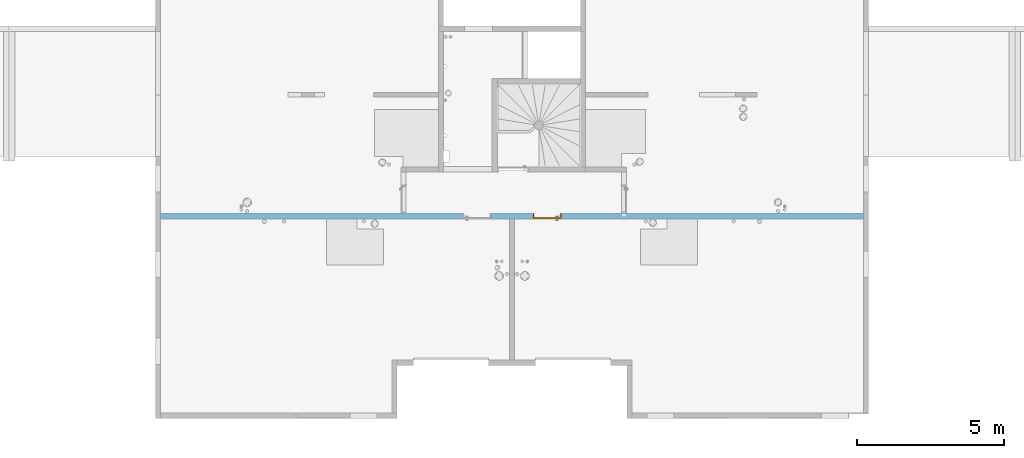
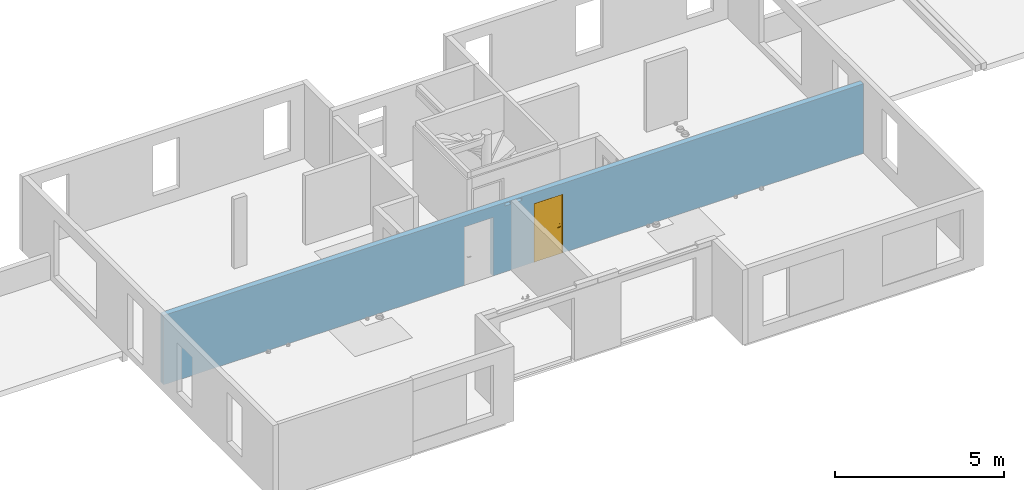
# One storey, part 9 of 24: 1 door, 6 openings, plus 1 element that does not belong to this part.
"""IFC2X3 building model written with IfcOpenShell, lengths in centimetres."""

from ifc_helpers import new_model, entity, si_unit, converted_unit, derived_unit, direction, frame, frame_2d, origin, place, context, subcontext, project, spatial, rectangle, extrude, faceted_brep, source, transform, mapped, material, material_list, layer, layer_set, layer_usage, type_object, type_shapes, element, fill, save


model = new_model("IFC2X3")

# Units and contexts
model_context = context("Model", 3, precision=0.001, world=origin(), true_north=direction((6.12303176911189e-17, 1.0)))
body_context = subcontext(model_context, "Body", "Model", "MODEL_VIEW")
ifc_project = project(units=[si_unit("LENGTHUNIT", "METRE", prefix="CENTI"), si_unit("AREAUNIT", "SQUARE_METRE"), si_unit("VOLUMEUNIT", "CUBIC_METRE"), converted_unit("PLANEANGLEUNIT", "DEGREE", entity("IfcRatioMeasure", 0.0174532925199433), si_unit("PLANEANGLEUNIT", "RADIAN"), dimensions=[0, 0, 0, 0, 0, 0, 0]), si_unit("MASSUNIT", "GRAM", prefix="KILO"), derived_unit("MASSDENSITYUNIT", [(si_unit("MASSUNIT", "GRAM", prefix="KILO"), 1), (si_unit("LENGTHUNIT", "METRE"), -3)]), si_unit("TIMEUNIT", "SECOND"), si_unit("FREQUENCYUNIT", "HERTZ"), si_unit("THERMODYNAMICTEMPERATUREUNIT", "DEGREE_CELSIUS"), derived_unit("THERMALTRANSMITTANCEUNIT", [(si_unit("MASSUNIT", "GRAM", prefix="KILO"), 1), (si_unit("THERMODYNAMICTEMPERATUREUNIT", "KELVIN"), -1), (si_unit("TIMEUNIT", "SECOND"), -3)]), derived_unit("VOLUMETRICFLOWRATEUNIT", [(si_unit("LENGTHUNIT", "METRE"), 3), (si_unit("TIMEUNIT", "SECOND"), -1)]), si_unit("ELECTRICCURRENTUNIT", "AMPERE"), si_unit("ELECTRICVOLTAGEUNIT", "VOLT"), si_unit("POWERUNIT", "WATT"), si_unit("FORCEUNIT", "NEWTON"), si_unit("ILLUMINANCEUNIT", "LUX"), si_unit("LUMINOUSFLUXUNIT", "LUMEN"), si_unit("LUMINOUSINTENSITYUNIT", "CANDELA"), derived_unit("USERDEFINED", [(si_unit("MASSUNIT", "GRAM", prefix="KILO"), -1), (si_unit("LENGTHUNIT", "METRE"), -2), (si_unit("TIMEUNIT", "SECOND"), 3), (si_unit("LUMINOUSFLUXUNIT", "LUMEN"), 1)]), derived_unit("LINEARVELOCITYUNIT", [(si_unit("LENGTHUNIT", "METRE"), 1), (si_unit("TIMEUNIT", "SECOND"), -1)]), si_unit("PRESSUREUNIT", "PASCAL"), derived_unit("USERDEFINED", [(si_unit("LENGTHUNIT", "METRE"), -2), (si_unit("MASSUNIT", "GRAM", prefix="KILO"), 1), (si_unit("TIMEUNIT", "SECOND"), -2)])], contexts=[model_context])

# Site, building, storey
site_placement = place(None, origin())
site = spatial("IfcSite", under=ifc_project, at=site_placement, Name="Default", CompositionType="ELEMENT")
building_placement = place(site_placement, origin())
building = spatial("IfcBuilding", under=site, at=building_placement, Name="CAGE 03", CompositionType="ELEMENT")
storey_placement = place(building_placement, frame((0.0, 0.0, 880.0)))
storey = spatial("IfcBuildingStorey", under=building, at=storey_placement, Name="R+3", CompositionType="ELEMENT", Elevation=880.0)

# Wall, openings, door
ifc_material_1 = material(Name="Béton, C25/30")
ifc_layer = layer(ifc_material_1, 18.0)
ifc_layer_set = layer_set([ifc_layer], Name="Mur de base:Voile BA 18")
ifc_layer_usage = layer_usage(ifc_layer_set, "AXIS2", "NEGATIVE", 9.0)
wall_type = type_object("IfcWallType", Name="Mur de base:Voile BA 18", PredefinedType="STANDARD", material=ifc_layer_set)
wall_placement = place(storey_placement, frame((5888.36582014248, 4483.6606660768, 0.0)))
wall = element("IfcWallStandardCase", 1, at=wall_placement, inside=storey, type_object=wall_type, material=ifc_layer_usage, Name="Mur de base:Voile BA 18", ObjectType="Mur de base:Voile BA 18", context=body_context, shape_type="SweptSolid", body=[
    extrude(rectangle(XDim=2385.99999999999, YDim=17.9999999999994, at=frame_2d((1193.0, -8.88178419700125e-16), x_axis=(-1.0, 0.0))), origin(), (0.0, 0.0, 1.0), 250.0),
])
opening_1_placement = place(wall_placement, origin())
element("IfcOpeningElement", 2, at=opening_1_placement, cuts=wall, Name="Mur de base:Voile BA 18", ObjectType="Opening", context=body_context, shape_type="SweptSolid", body=[
    extrude(rectangle(XDim=210.000000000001, YDim=18.0000000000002, at=frame_2d((4.33431068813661e-13, 1.06581410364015e-13), x_axis=(0.0, 1.0))), frame((825.0, 9.0, 105.0), z_axis=(0.0, 1.0, 0.0), x_axis=(1.0, 0.0, 0.0)), (0.0, 0.0, 1.0), 96.9999999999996),
])
opening_2_placement = place(wall_placement, origin())
element("IfcOpeningElement", 3, at=opening_2_placement, cuts=wall, Name="Mur de base:Voile BA 18", ObjectType="Opening", context=body_context, shape_type="SweptSolid", body=[
    extrude(rectangle(XDim=210.000000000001, YDim=18.0000000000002, at=frame_2d((4.33431068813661e-13, 1.06581410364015e-13), x_axis=(0.0, 1.0))), frame((1573.0, 9.0, 105.0), z_axis=(0.0, 1.0, 0.0), x_axis=(1.0, 0.0, 0.0)), (0.0, 0.0, 1.0), 96.9999999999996),
])
opening_3_placement = place(wall_placement, origin())
element("IfcOpeningElement", 4, at=opening_3_placement, cuts=wall, Name="Mur de base:Voile BA 18", ObjectType="Opening", context=body_context, shape_type="SweptSolid", body=[
    extrude(rectangle(XDim=10.0000000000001, YDim=19.9999999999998, at=frame_2d((4.33431068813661e-13, 1.08357767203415e-13), x_axis=(0.0, 1.0))), frame((1174.0, -9.0, 242.5), z_axis=(0.0, 1.0, 0.0), x_axis=(1.0, 0.0, 0.0)), (0.0, 0.0, 1.0), 17.9999999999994),
])
opening_4_placement = place(wall_placement, origin())
element("IfcOpeningElement", 5, at=opening_4_placement, cuts=wall, Name="Mur de base:Voile BA 18", ObjectType="Opening", context=body_context, shape_type="SweptSolid", body=[
    extrude(rectangle(XDim=10.0000000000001, YDim=19.9999999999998, at=frame_2d((4.33431068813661e-13, 1.08357767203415e-13), x_axis=(0.0, 1.0))), frame((1212.0, -9.0, 242.5), z_axis=(0.0, 1.0, 0.0), x_axis=(1.0, 0.0, 0.0)), (0.0, 0.0, 1.0), 17.9999999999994),
])
opening_5_placement = place(wall_placement, frame((1122.5, 9.0, 0.0)))
element("IfcOpeningElement", 6, at=opening_5_placement, cuts=wall, Name="Int. Simple:HB93:1", ObjectType="Opening", context=body_context, shape_type="SweptSolid", body=[
    extrude(rectangle(XDim=210.000000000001, YDim=96.9999999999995, at=frame_2d((105.000000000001, 48.4999999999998), x_axis=(1.0, 0.0))), frame((0.0, 0.0, 0.0), z_axis=(0.0, -1.0, 0.0), x_axis=(0.0, 0.0, 1.0)), (0.0, 0.0, 1.0), 18.0),
])
opening_6_placement = place(wall_placement, frame((1360.5, 9.0, 0.0)))
opening_6 = element("IfcOpeningElement", 7, at=opening_6_placement, cuts=wall, Name="Int. Simple:HB93:1", ObjectType="Opening", context=body_context, shape_type="SweptSolid", body=[
    extrude(rectangle(XDim=210.000000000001, YDim=96.9999999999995, at=frame_2d((105.000000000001, 48.4999999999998), x_axis=(1.0, 0.0))), frame((0.0, 0.0, 0.0), z_axis=(0.0, -1.0, 0.0), x_axis=(0.0, 0.0, 1.0)), (0.0, 0.0, 1.0), 18.0),
])
ifc_material_2 = material(Name="Finition Peinture - Blanc satiné")
ifc_material_3 = material(Name="Bois - Panneau de porte")
ifc_material_4 = material(Name="Bois - Cadre de porte")
ifc_material_list_1 = material_list([ifc_material_2, ifc_material_3, ifc_material_4])
ifc_material_list_2 = material_list([ifc_material_2, ifc_material_3, ifc_material_4])
door_style = type_object("IfcDoorStyle", Name="HB93", ConstructionType="NOTDEFINED", OperationType="SINGLE_SWING_RIGHT", ParameterTakesPrecedence=False, Sizeable=False, material=ifc_material_list_2)
shared_shape = source(origin(), body_context, "Body", "Brep", [
    faceted_brep([(96.5000000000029, -0.500000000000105, 87.0), (96.5000000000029, -0.500000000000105, 108.0), (95.535276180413, -0.500000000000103, 108.399601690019), (94.5000000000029, -0.500000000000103, 108.535898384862), (93.4647238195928, -0.500000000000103, 108.399601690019), (92.5000000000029, -0.500000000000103, 108.0), (92.5000000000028, -0.500000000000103, 87.0), (93.4647238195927, -0.500000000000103, 86.6003983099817), (94.5000000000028, -0.500000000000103, 86.464101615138), (95.5352761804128, -0.500000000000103, 86.6003983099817), (96.5000000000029, 0.0, 108.0), (96.5000000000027, 0.0, 87.0), (95.5352761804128, 0.0, 86.6003983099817), (94.5000000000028, 0.0, 86.464101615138), (93.4647238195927, 0.0, 86.6003983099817), (92.5000000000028, 0.0, 87.0), (92.5000000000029, 0.0, 108.0), (93.4647238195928, 0.0, 108.399601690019), (94.5000000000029, 0.0, 108.535898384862), (95.535276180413, 0.0, 108.399601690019)], [[[0, 1, 2, 3, 4, 5, 6, 7, 8, 9]], [[10, 11, 12, 13, 14, 15, 16, 17, 18, 19]], [[9, 12, 11, 0]], [[8, 13, 12, 9]], [[7, 14, 13, 8]], [[7, 6, 15, 14]], [[15, 6, 5, 16]], [[4, 17, 16, 5]], [[3, 18, 17, 4]], [[2, 19, 18, 3]], [[2, 1, 10, 19]], [[11, 10, 1, 0]]]),
    faceted_brep([(96.5000000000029, 4.0, 87.0), (96.5000000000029, 4.0, 108.0), (95.535276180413, 4.0, 108.399601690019), (94.5000000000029, 4.0, 108.535898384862), (93.4647238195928, 4.0, 108.399601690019), (92.500000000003, 4.0, 108.0), (92.5000000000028, 4.0, 87.0), (93.4647238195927, 4.0, 86.6003983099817), (94.5000000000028, 4.0, 86.464101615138), (95.5352761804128, 4.0, 86.6003983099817), (94.5000000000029, 4.49999999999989, 108.535898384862), (95.535276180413, 4.49999999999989, 108.399601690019), (96.5000000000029, 4.49999999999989, 108.0), (96.5000000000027, 4.49999999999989, 87.0), (95.5352761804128, 4.49999999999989, 86.6003983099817), (94.5000000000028, 4.49999999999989, 86.464101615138), (93.4647238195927, 4.49999999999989, 86.6003983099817), (92.5000000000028, 4.4999999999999, 87.0), (92.5000000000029, 4.4999999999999, 108.0), (93.4647238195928, 4.49999999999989, 108.399601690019)], [[[0, 1, 2, 3, 4, 5, 6, 7, 8, 9]], [[10, 11, 12, 13, 14, 15, 16, 17, 18, 19]], [[4, 19, 18, 5]], [[3, 10, 19, 4]], [[2, 11, 10, 3]], [[2, 1, 12, 11]], [[13, 12, 1, 0]], [[9, 14, 13, 0]], [[8, 15, 14, 9]], [[7, 16, 15, 8]], [[7, 6, 17, 16]], [[17, 6, 5, 18]]]),
    faceted_brep([(94.2974701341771, -0.500000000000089, 100.778044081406), (94.7025298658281, -0.500000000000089, 100.778044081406), (95.100000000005, -0.500000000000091, 100.699999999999), (95.100000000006, -0.500000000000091, 99.2999999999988), (94.7025298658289, -0.500000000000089, 99.221955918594), (94.297470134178, -0.500000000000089, 99.2219559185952), (93.9000000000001, -0.500000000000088, 99.3000000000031), (93.9000000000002, -0.500000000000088, 100.7), (94.7025298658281, -3.10045754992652, 100.778044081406), (95.1000000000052, -3.26509507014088, 100.7), (94.2974701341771, -2.93267631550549, 100.778044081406), (92.9298602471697, -4.30028620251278, 100.778044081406), (93.0976414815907, -4.70534593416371, 100.778044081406), (93.9000000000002, -2.76803879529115, 100.7), (93.9000000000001, -2.76803879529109, 99.3000000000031), (94.297470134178, -2.93267631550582, 99.2219559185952), (94.7025298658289, -3.10045754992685, 99.221955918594), (93.0976414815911, -4.70534593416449, 99.221955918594), (92.9298602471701, -4.30028620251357, 99.2219559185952), (95.100000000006, -3.26509507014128, 99.2999999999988), (93.2622790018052, -5.1028160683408, 100.7), (92.7652227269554, -3.90281606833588, 100.7), (92.7652227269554, -3.90281606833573, 99.3000000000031), (93.2622790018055, -5.10281606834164, 99.2999999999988), (84.4981359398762, -5.10281606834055, 100.7), (84.4981359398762, -4.70534593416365, 100.778044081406), (84.4981359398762, -4.30028620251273, 100.778044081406), (84.4981359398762, -3.90281606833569, 100.699999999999), (84.4981359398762, -3.90281606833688, 99.3000000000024), (84.4981359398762, -4.30028620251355, 99.2219559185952), (84.4981359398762, -4.70534593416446, 99.221955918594), (84.4981359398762, -5.10281606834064, 99.2999999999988), (88.7139980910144, -4.5028160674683, 100.78786867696), (89.2692302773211, -5.1028160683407, 100.7), (88.6316793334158, -3.90281606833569, 100.7), (88.631679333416, -3.90281606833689, 99.3000000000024), (88.7139981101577, -4.50281607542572, 99.2121313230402), (89.2692310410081, -5.10281606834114, 99.2999999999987)], [[[0, 1, 2, 3, 4, 5, 6, 7]], [[2, 1, 8, 9]], [[1, 0, 10, 11, 12, 8]], [[0, 7, 13, 10]], [[14, 13, 7, 6]], [[5, 15, 14, 6]], [[5, 4, 16, 17, 18, 15]], [[3, 19, 16, 4]], [[9, 19, 3, 2]], [[9, 8, 12, 20]], [[10, 13, 21, 11]], [[22, 21, 13, 14]], [[14, 15, 18, 22]], [[16, 19, 23, 17]], [[20, 23, 19, 9]], [[24, 25, 26, 27, 28, 29, 30, 31]], [[32, 25, 33]], [[33, 25, 24]], [[33, 20, 12]], [[11, 34, 32]], [[34, 11, 21]], [[27, 26, 34]], [[32, 26, 25]], [[32, 34, 26]], [[32, 33, 12]], [[11, 32, 12]], [[21, 22, 35, 28, 27, 34]], [[36, 29, 35]], [[30, 36, 37]], [[18, 35, 22]], [[29, 28, 35]], [[30, 37, 31]], [[37, 17, 23]], [[36, 17, 37]], [[36, 18, 17]], [[36, 35, 18]], [[29, 36, 30]], [[23, 20, 33, 24, 31, 37]]]),
    faceted_brep([(94.2974701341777, 4.49999999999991, 99.2219559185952), (94.7025298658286, 4.49999999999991, 99.221955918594), (95.1000000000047, 4.49999999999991, 99.2999999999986), (95.1000000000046, 4.49999999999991, 100.7), (94.7025298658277, 4.49999999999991, 100.778044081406), (94.2974701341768, 4.49999999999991, 100.778044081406), (93.8999999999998, 4.49999999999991, 100.7), (93.900000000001, 4.49999999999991, 99.3000000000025), (93.8999999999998, 6.7485204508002, 100.7), (93.8999999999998, 6.74852045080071, 99.3000000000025), (94.2974701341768, 6.91315797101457, 100.778044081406), (94.7025298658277, 7.0809392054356, 100.778044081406), (93.0838906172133, 8.69957845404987, 100.778044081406), (92.9161093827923, 8.29451872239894, 100.778044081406), (95.1000000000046, 7.24557672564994, 100.7), (95.1000000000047, 7.24557672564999, 99.2999999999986), (94.7025298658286, 7.08093920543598, 99.221955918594), (94.2974701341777, 6.91315797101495, 99.2219559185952), (92.9161093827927, 8.29451872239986, 99.2219559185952), (93.0838906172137, 8.69957845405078, 99.221955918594), (92.751471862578, 7.89704858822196, 100.7), (92.7514718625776, 7.89704858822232, 99.3000000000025), (93.2485281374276, 9.09704858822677, 100.7), (93.2485281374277, 9.09704858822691, 99.2999999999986), (84.4954216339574, 8.29451872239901, 100.778044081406), (84.4954216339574, 8.69957845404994, 100.778044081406), (84.4954216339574, 9.09704858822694, 100.7), (84.4954216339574, 9.09704858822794, 99.2999999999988), (84.4954216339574, 8.6995784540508, 99.221955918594), (84.4954216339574, 8.29451872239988, 99.2219559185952), (84.4954216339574, 7.89704858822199, 99.3000000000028), (84.4954216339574, 7.89704858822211, 100.7), (88.6234467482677, 7.89704858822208, 100.7), (88.6234479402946, 7.89704858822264, 99.3000000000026), (88.7057655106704, 8.49704858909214, 100.78786867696), (89.255479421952, 9.09704858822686, 100.7), (89.2554795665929, 9.09704858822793, 99.2999999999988), (88.7057654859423, 8.49704858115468, 99.2121313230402)], [[[0, 1, 2, 3, 4, 5, 6, 7]], [[8, 9, 7, 6]], [[5, 10, 8, 6]], [[5, 4, 11, 12, 13, 10]], [[3, 14, 11, 4]], [[14, 3, 2, 15]], [[2, 1, 16, 15]], [[1, 0, 17, 18, 19, 16]], [[0, 7, 9, 17]], [[20, 21, 9, 8]], [[8, 10, 13, 20]], [[14, 22, 12, 11]], [[23, 22, 14, 15]], [[15, 16, 19, 23]], [[17, 9, 21, 18]], [[24, 25, 26, 27, 28, 29, 30, 31]], [[21, 20, 32, 31, 30, 33]], [[34, 24, 32]], [[25, 34, 35]], [[13, 32, 20]], [[24, 31, 32]], [[25, 35, 26]], [[35, 12, 22]], [[34, 12, 35]], [[34, 13, 12]], [[34, 32, 13]], [[24, 34, 25]], [[22, 23, 36, 27, 26, 35]], [[37, 28, 36]], [[36, 28, 27]], [[36, 23, 19]], [[18, 33, 37]], [[33, 18, 21]], [[30, 29, 33]], [[37, 29, 28]], [[37, 33, 29]], [[37, 36, 19]], [[18, 37, 19]]]),
    faceted_brep([(100.500000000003, 4.0, 206.5), (100.500000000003, 4.0, 0.0), (10.5000000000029, 4.0, 0.0), (10.5000000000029, 4.0, 206.5), (100.500000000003, 0.0, 206.5), (10.5000000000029, 0.0, 206.5), (10.5000000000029, 0.0, 0.0), (100.500000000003, 0.0, 0.0)], [[[0, 1, 2, 3]], [[4, 5, 6, 7]], [[3, 5, 4, 0]], [[2, 6, 5, 3]], [[1, 7, 6, 2]], [[0, 4, 7, 1]]]),
    faceted_brep([(104.0, 0.0, 0.0), (100.500000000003, 0.0, 0.0), (100.500000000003, 4.0, 0.0), (99.0, 4.0, 0.0), (99.0, 18.0, 0.0), (104.0, 18.0, 0.0), (104.0, 18.0, 210.0), (104.0, 0.0, 210.0), (99.0, 18.0, 205.0), (12.0, 18.0, 205.0), (12.0, 18.0, 0.0), (7.0, 18.0, 0.0), (7.0, 18.0, 210.0), (99.0, 4.0, 205.0), (100.500000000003, 4.0, 206.5), (10.5000000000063, 4.0, 206.5), (10.5000000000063, 4.0, 0.0), (12.0, 4.0, 0.0), (12.0, 4.0, 205.0), (100.500000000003, 0.0, 206.5), (7.0, 0.0, 210.0), (7.0, 0.0, 0.0), (10.5000000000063, 0.0, 0.0), (10.5000000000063, 0.0, 206.5)], [[[0, 1, 2, 3, 4, 5]], [[5, 6, 7, 0]], [[4, 8, 9, 10, 11, 12, 6, 5]], [[3, 13, 8, 4]], [[2, 14, 15, 16, 17, 18, 13, 3]], [[1, 19, 14, 2]], [[0, 7, 20, 21, 22, 23, 19, 1]], [[12, 11, 21, 20]], [[21, 11, 10, 17, 16, 22]], [[18, 17, 10, 9]], [[23, 22, 16, 15]], [[6, 12, 20, 7]], [[13, 18, 9, 8]], [[19, 23, 15, 14]]]),
    faceted_brep([(102.500000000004, 18.0, 0.0), (102.500000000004, 18.5000000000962, 0.0), (105.500000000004, 18.5000000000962, 0.0), (105.500000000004, 18.0, 0.0), (105.500000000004, 18.0, 211.500000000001), (5.50000000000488, 18.0, 211.500000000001), (5.50000000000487, 18.0, 0.0), (8.50000000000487, 18.0, 0.0), (8.50000000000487, 18.0, 208.500000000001), (102.500000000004, 18.0, 208.500000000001), (105.500000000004, 18.5000000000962, 211.500000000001), (102.500000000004, 18.5000000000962, 208.500000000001), (8.50000000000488, 18.5000000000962, 208.500000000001), (8.50000000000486, 18.5000000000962, 0.0), (5.50000000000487, 18.5000000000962, 0.0), (5.50000000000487, 18.5000000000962, 211.500000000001)], [[[0, 1, 2, 3]], [[3, 4, 5, 6, 7, 8, 9, 0]], [[2, 10, 4, 3]], [[1, 11, 12, 13, 14, 15, 10, 2]], [[0, 9, 11, 1]], [[7, 6, 14, 13]], [[8, 7, 13, 12]], [[15, 14, 6, 5]], [[10, 15, 5, 4]], [[9, 8, 12, 11]]]),
    faceted_brep([(105.500000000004, -0.5, 0.0), (105.500000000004, -0.5, 211.500000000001), (5.50000000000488, -0.5, 211.500000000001), (5.50000000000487, -0.5, 0.0), (8.50000000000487, -0.5, 0.0), (8.50000000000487, -0.5, 208.500000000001), (102.500000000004, -0.5, 208.500000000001), (102.500000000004, -0.5, 0.0), (105.500000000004, 0.0, 0.0), (105.500000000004, 0.0, 211.500000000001), (102.500000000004, 0.0, 0.0), (102.500000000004, 0.0, 208.500000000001), (8.50000000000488, 0.0, 208.500000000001), (8.50000000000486, 0.0, 0.0), (5.50000000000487, 0.0, 0.0), (5.50000000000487, 0.0, 211.500000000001)], [[[0, 1, 2, 3, 4, 5, 6, 7]], [[8, 9, 1, 0]], [[10, 11, 12, 13, 14, 15, 9, 8]], [[7, 6, 11, 10]], [[5, 4, 13, 12]], [[15, 14, 3, 2]], [[9, 15, 2, 1]], [[6, 5, 12, 11]], [[4, 3, 14, 13]], [[7, 10, 8, 0]]]),
])
type_shapes(door_style, [shared_shape])
door_placement = place(opening_6_placement, frame((-104.0, -18.0, 0.0)))
door = element("IfcDoor", 8, at=door_placement, inside=storey, type_object=door_style, material=ifc_material_list_1, Name="Int. Simple:HB93", ObjectType="HB93", OverallHeight=210.000000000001, OverallWidth=96.9999999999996, context=body_context, shape_type="MappedRepresentation", body=[
    mapped(shared_shape, transform((0.0, 0.0, 0.0), scale=1.0)),
])
fill(opening_6, door)

save(model, "model.ifc")
